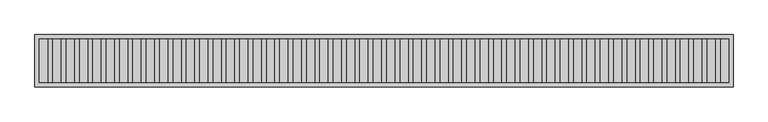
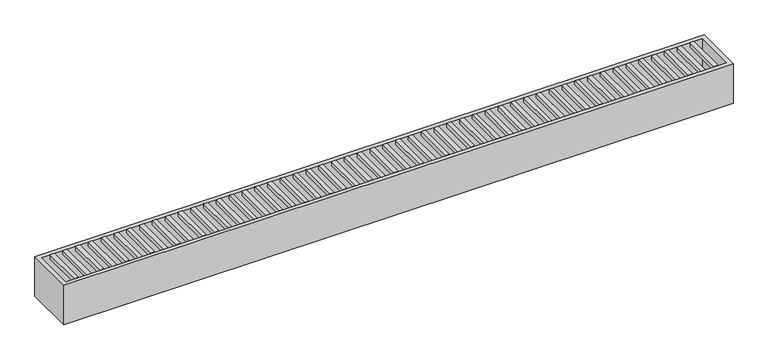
"""IFC4 building model written with IfcOpenShell, lengths in millimetres: flow terminal geometry, ARQ-RE-EX-Ace : L=3.20m."""

from ifc_helpers import new_model, si_unit, frame, origin, place, context, project, spatial, polyline, outline, extrude, source, transform, mapped, element, save


def flow_terminal_4e4d4900(model_context):
    return source(origin(), model_context, "Body", "SweptSolid", [
        extrude(outline(polyline([(1478.8, 100.0), (1478.8, -100.0), (1458.8, -100.0), (1458.8, 100.0), (1478.8, 100.0)])), frame((0.0, 0.0, -20.0), z_axis=(0.0, 0.0, 1.0), x_axis=(1.0, 0.0, 0.0)), (0.0, 0.0, 1.0), 20.0),
        extrude(outline(polyline([(1417.6, 100.0), (1417.6, -100.0), (1397.6, -100.0), (1397.6, 100.0), (1417.6, 100.0)])), frame((0.0, 0.0, -20.0), z_axis=(0.0, 0.0, 1.0), x_axis=(1.0, 0.0, 0.0)), (0.0, 0.0, 1.0), 20.0),
        extrude(outline(polyline([(1356.4, 100.0), (1356.4, -100.0), (1336.4, -100.0), (1336.4, 100.0), (1356.4, 100.0)])), frame((0.0, 0.0, -20.0), z_axis=(0.0, 0.0, 1.0), x_axis=(1.0, 0.0, 0.0)), (0.0, 0.0, 1.0), 20.0),
        extrude(outline(polyline([(1295.2, 100.0), (1295.2, -100.0), (1275.2, -100.0), (1275.2, 100.0), (1295.2, 100.0)])), frame((0.0, 0.0, -20.0), z_axis=(0.0, 0.0, 1.0), x_axis=(1.0, 0.0, 0.0)), (0.0, 0.0, 1.0), 20.0),
        extrude(outline(polyline([(1234.0, 100.0), (1234.0, -100.0), (1214.0, -100.0), (1214.0, 100.0), (1234.0, 100.0)])), frame((0.0, 0.0, -20.0), z_axis=(0.0, 0.0, 1.0), x_axis=(1.0, 0.0, 0.0)), (0.0, 0.0, 1.0), 20.0),
        extrude(outline(polyline([(1172.8, 100.0), (1172.8, -100.0), (1152.8, -100.0), (1152.8, 100.0), (1172.8, 100.0)])), frame((0.0, 0.0, -20.0), z_axis=(0.0, 0.0, 1.0), x_axis=(1.0, 0.0, 0.0)), (0.0, 0.0, 1.0), 20.0),
        extrude(outline(polyline([(1111.6, 100.0), (1111.6, -100.0), (1091.6, -100.0), (1091.6, 100.0), (1111.6, 100.0)])), frame((0.0, 0.0, -20.0), z_axis=(0.0, 0.0, 1.0), x_axis=(1.0, 0.0, 0.0)), (0.0, 0.0, 1.0), 20.0),
        extrude(outline(polyline([(1050.4, 100.0), (1050.4, -100.0), (1030.4, -100.0), (1030.4, 100.0), (1050.4, 100.0)])), frame((0.0, 0.0, -20.0), z_axis=(0.0, 0.0, 1.0), x_axis=(1.0, 0.0, 0.0)), (0.0, 0.0, 1.0), 20.0),
        extrude(outline(polyline([(989.2, 100.0), (989.2, -100.0), (969.2, -100.0), (969.2, 100.0), (989.2, 100.0)])), frame((0.0, 0.0, -20.0), z_axis=(0.0, 0.0, 1.0), x_axis=(1.0, 0.0, 0.0)), (0.0, 0.0, 1.0), 20.0),
        extrude(outline(polyline([(928.0, 100.0), (928.0, -100.0), (908.0, -100.0), (908.0, 100.0), (928.0, 100.0)])), frame((0.0, 0.0, -20.0), z_axis=(0.0, 0.0, 1.0), x_axis=(1.0, 0.0, 0.0)), (0.0, 0.0, 1.0), 20.0),
        extrude(outline(polyline([(866.8, 100.0), (866.8, -100.0), (846.8, -100.0), (846.8, 100.0), (866.8, 100.0)])), frame((0.0, 0.0, -20.0), z_axis=(0.0, 0.0, 1.0), x_axis=(1.0, 0.0, 0.0)), (0.0, 0.0, 1.0), 20.0),
        extrude(outline(polyline([(805.6, 100.0), (805.6, -100.0), (785.6, -100.0), (785.6, 100.0), (805.6, 100.0)])), frame((0.0, 0.0, -20.0), z_axis=(0.0, 0.0, 1.0), x_axis=(1.0, 0.0, 0.0)), (0.0, 0.0, 1.0), 20.0),
        extrude(outline(polyline([(744.4, 100.0), (744.4, -100.0), (724.4, -100.0), (724.4, 100.0), (744.4, 100.0)])), frame((0.0, 0.0, -20.0), z_axis=(0.0, 0.0, 1.0), x_axis=(1.0, 0.0, 0.0)), (0.0, 0.0, 1.0), 20.0),
        extrude(outline(polyline([(683.2, 100.0), (683.2, -100.0), (663.2, -100.0), (663.2, 100.0), (683.2, 100.0)])), frame((0.0, 0.0, -20.0), z_axis=(0.0, 0.0, 1.0), x_axis=(1.0, 0.0, 0.0)), (0.0, 0.0, 1.0), 20.0),
        extrude(outline(polyline([(622.0, 100.0), (622.0, -100.0), (602.0, -100.0), (602.0, 100.0), (622.0, 100.0)])), frame((0.0, 0.0, -20.0), z_axis=(0.0, 0.0, 1.0), x_axis=(1.0, 0.0, 0.0)), (0.0, 0.0, 1.0), 20.0),
        extrude(outline(polyline([(560.8, 100.0), (560.8, -100.0), (540.8, -100.0), (540.8, 100.0), (560.8, 100.0)])), frame((0.0, 0.0, -20.0), z_axis=(0.0, 0.0, 1.0), x_axis=(1.0, 0.0, 0.0)), (0.0, 0.0, 1.0), 20.0),
        extrude(outline(polyline([(499.6, 100.0), (499.6, -100.0), (479.6, -100.0), (479.6, 100.0), (499.6, 100.0)])), frame((0.0, 0.0, -20.0), z_axis=(0.0, 0.0, 1.0), x_axis=(1.0, 0.0, 0.0)), (0.0, 0.0, 1.0), 20.0),
        extrude(outline(polyline([(438.4, 100.0), (438.4, -100.0), (418.4, -100.0), (418.4, 100.0), (438.4, 100.0)])), frame((0.0, 0.0, -20.0), z_axis=(0.0, 0.0, 1.0), x_axis=(1.0, 0.0, 0.0)), (0.0, 0.0, 1.0), 20.0),
        extrude(outline(polyline([(377.2, 100.0), (377.2, -100.0), (357.2, -100.0), (357.2, 100.0), (377.2, 100.0)])), frame((0.0, 0.0, -20.0), z_axis=(0.0, 0.0, 1.0), x_axis=(1.0, 0.0, 0.0)), (0.0, 0.0, 1.0), 20.0),
        extrude(outline(polyline([(316.0, 100.0), (316.0, -100.0), (296.0, -100.0), (296.0, 100.0), (316.0, 100.0)])), frame((0.0, 0.0, -20.0), z_axis=(0.0, 0.0, 1.0), x_axis=(1.0, 0.0, 0.0)), (0.0, 0.0, 1.0), 20.0),
        extrude(outline(polyline([(254.8, 100.0), (254.8, -100.0), (234.8, -100.0), (234.8, 100.0), (254.8, 100.0)])), frame((0.0, 0.0, -20.0), z_axis=(0.0, 0.0, 1.0), x_axis=(1.0, 0.0, 0.0)), (0.0, 0.0, 1.0), 20.0),
        extrude(outline(polyline([(193.6, 100.0), (193.6, -100.0), (173.6, -100.0), (173.6, 100.0), (193.6, 100.0)])), frame((0.0, 0.0, -20.0), z_axis=(0.0, 0.0, 1.0), x_axis=(1.0, 0.0, 0.0)), (0.0, 0.0, 1.0), 20.0),
        extrude(outline(polyline([(132.4, 100.0), (132.4, -100.0), (112.4, -100.0), (112.4, 100.0), (132.4, 100.0)])), frame((0.0, 0.0, -20.0), z_axis=(0.0, 0.0, 1.0), x_axis=(1.0, 0.0, 0.0)), (0.0, 0.0, 1.0), 20.0),
        extrude(outline(polyline([(71.2, 100.0), (71.2, -100.0), (51.2, -100.0), (51.2, 100.0), (71.2, 100.0)])), frame((0.0, 0.0, -20.0), z_axis=(0.0, 0.0, 1.0), x_axis=(1.0, 0.0, 0.0)), (0.0, 0.0, 1.0), 20.0),
        extrude(outline(polyline([(10.0, 100.0), (10.0, -100.0), (-10.0, -100.0), (-10.0, 100.0), (10.0, 100.0)])), frame((0.0, 0.0, -20.0), z_axis=(0.0, 0.0, 1.0), x_axis=(1.0, 0.0, 0.0)), (0.0, 0.0, 1.0), 20.0),
        extrude(outline(polyline([(-51.2, 100.0), (-51.2, -100.0), (-71.2, -100.0), (-71.2, 100.0), (-51.2, 100.0)])), frame((0.0, 0.0, -20.0), z_axis=(0.0, 0.0, 1.0), x_axis=(1.0, 0.0, 0.0)), (0.0, 0.0, 1.0), 20.0),
        extrude(outline(polyline([(-112.4, 100.0), (-112.4, -100.0), (-132.4, -100.0), (-132.4, 100.0), (-112.4, 100.0)])), frame((0.0, 0.0, -20.0), z_axis=(0.0, 0.0, 1.0), x_axis=(1.0, 0.0, 0.0)), (0.0, 0.0, 1.0), 20.0),
        extrude(outline(polyline([(-173.6, 100.0), (-173.6, -100.0), (-193.6, -100.0), (-193.6, 100.0), (-173.6, 100.0)])), frame((0.0, 0.0, -20.0), z_axis=(0.0, 0.0, 1.0), x_axis=(1.0, 0.0, 0.0)), (0.0, 0.0, 1.0), 20.0),
        extrude(outline(polyline([(-234.8, 100.0), (-234.8, -100.0), (-254.8, -100.0), (-254.8, 100.0), (-234.8, 100.0)])), frame((0.0, 0.0, -20.0), z_axis=(0.0, 0.0, 1.0), x_axis=(1.0, 0.0, 0.0)), (0.0, 0.0, 1.0), 20.0),
        extrude(outline(polyline([(-296.0, 100.0), (-296.0, -100.0), (-316.0, -100.0), (-316.0, 100.0), (-296.0, 100.0)])), frame((0.0, 0.0, -20.0), z_axis=(0.0, 0.0, 1.0), x_axis=(1.0, 0.0, 0.0)), (0.0, 0.0, 1.0), 20.0),
        extrude(outline(polyline([(-357.2, 100.0), (-357.2, -100.0), (-377.2, -100.0), (-377.2, 100.0), (-357.2, 100.0)])), frame((0.0, 0.0, -20.0), z_axis=(0.0, 0.0, 1.0), x_axis=(1.0, 0.0, 0.0)), (0.0, 0.0, 1.0), 20.0),
        extrude(outline(polyline([(-418.4, 100.0), (-418.4, -100.0), (-438.4, -100.0), (-438.4, 100.0), (-418.4, 100.0)])), frame((0.0, 0.0, -20.0), z_axis=(0.0, 0.0, 1.0), x_axis=(1.0, 0.0, 0.0)), (0.0, 0.0, 1.0), 20.0),
        extrude(outline(polyline([(-479.6, 100.0), (-479.6, -100.0), (-499.6, -100.0), (-499.6, 100.0), (-479.6, 100.0)])), frame((0.0, 0.0, -20.0), z_axis=(0.0, 0.0, 1.0), x_axis=(1.0, 0.0, 0.0)), (0.0, 0.0, 1.0), 20.0),
        extrude(outline(polyline([(-540.8, 100.0), (-540.8, -100.0), (-560.8, -100.0), (-560.8, 100.0), (-540.8, 100.0)])), frame((0.0, 0.0, -20.0), z_axis=(0.0, 0.0, 1.0), x_axis=(1.0, 0.0, 0.0)), (0.0, 0.0, 1.0), 20.0),
        extrude(outline(polyline([(-602.0, 100.0), (-602.0, -100.0), (-622.0, -100.0), (-622.0, 100.0), (-602.0, 100.0)])), frame((0.0, 0.0, -20.0), z_axis=(0.0, 0.0, 1.0), x_axis=(1.0, 0.0, 0.0)), (0.0, 0.0, 1.0), 20.0),
        extrude(outline(polyline([(-663.2, 100.0), (-663.2, -100.0), (-683.2, -100.0), (-683.2, 100.0), (-663.2, 100.0)])), frame((0.0, 0.0, -20.0), z_axis=(0.0, 0.0, 1.0), x_axis=(1.0, 0.0, 0.0)), (0.0, 0.0, 1.0), 20.0),
        extrude(outline(polyline([(-724.4, 100.0), (-724.4, -100.0), (-744.4, -100.0), (-744.4, 100.0), (-724.4, 100.0)])), frame((0.0, 0.0, -20.0), z_axis=(0.0, 0.0, 1.0), x_axis=(1.0, 0.0, 0.0)), (0.0, 0.0, 1.0), 20.0),
        extrude(outline(polyline([(-785.6, 100.0), (-785.6, -100.0), (-805.6, -100.0), (-805.6, 100.0), (-785.6, 100.0)])), frame((0.0, 0.0, -20.0), z_axis=(0.0, 0.0, 1.0), x_axis=(1.0, 0.0, 0.0)), (0.0, 0.0, 1.0), 20.0),
        extrude(outline(polyline([(-846.8, 100.0), (-846.8, -100.0), (-866.8, -100.0), (-866.8, 100.0), (-846.8, 100.0)])), frame((0.0, 0.0, -20.0), z_axis=(0.0, 0.0, 1.0), x_axis=(1.0, 0.0, 0.0)), (0.0, 0.0, 1.0), 20.0),
        extrude(outline(polyline([(-908.0, 100.0), (-908.0, -100.0), (-928.0, -100.0), (-928.0, 100.0), (-908.0, 100.0)])), frame((0.0, 0.0, -20.0), z_axis=(0.0, 0.0, 1.0), x_axis=(1.0, 0.0, 0.0)), (0.0, 0.0, 1.0), 20.0),
        extrude(outline(polyline([(-969.2, 100.0), (-969.2, -100.0), (-989.2, -100.0), (-989.2, 100.0), (-969.2, 100.0)])), frame((0.0, 0.0, -20.0), z_axis=(0.0, 0.0, 1.0), x_axis=(1.0, 0.0, 0.0)), (0.0, 0.0, 1.0), 20.0),
        extrude(outline(polyline([(-1030.4, 100.0), (-1030.4, -100.0), (-1050.4, -100.0), (-1050.4, 100.0), (-1030.4, 100.0)])), frame((0.0, 0.0, -20.0), z_axis=(0.0, 0.0, 1.0), x_axis=(1.0, 0.0, 0.0)), (0.0, 0.0, 1.0), 20.0),
        extrude(outline(polyline([(-1091.6, 100.0), (-1091.6, -100.0), (-1111.6, -100.0), (-1111.6, 100.0), (-1091.6, 100.0)])), frame((0.0, 0.0, -20.0), z_axis=(0.0, 0.0, 1.0), x_axis=(1.0, 0.0, 0.0)), (0.0, 0.0, 1.0), 20.0),
        extrude(outline(polyline([(-1152.8, 100.0), (-1152.8, -100.0), (-1172.8, -100.0), (-1172.8, 100.0), (-1152.8, 100.0)])), frame((0.0, 0.0, -20.0), z_axis=(0.0, 0.0, 1.0), x_axis=(1.0, 0.0, 0.0)), (0.0, 0.0, 1.0), 20.0),
        extrude(outline(polyline([(-1214.0, 100.0), (-1214.0, -100.0), (-1234.0, -100.0), (-1234.0, 100.0), (-1214.0, 100.0)])), frame((0.0, 0.0, -20.0), z_axis=(0.0, 0.0, 1.0), x_axis=(1.0, 0.0, 0.0)), (0.0, 0.0, 1.0), 20.0),
        extrude(outline(polyline([(-1275.2, 100.0), (-1275.2, -100.0), (-1295.2, -100.0), (-1295.2, 100.0), (-1275.2, 100.0)])), frame((0.0, 0.0, -20.0), z_axis=(0.0, 0.0, 1.0), x_axis=(1.0, 0.0, 0.0)), (0.0, 0.0, 1.0), 20.0),
        extrude(outline(polyline([(-1336.4, 100.0), (-1336.4, -100.0), (-1356.4, -100.0), (-1356.4, 100.0), (-1336.4, 100.0)])), frame((0.0, 0.0, -20.0), z_axis=(0.0, 0.0, 1.0), x_axis=(1.0, 0.0, 0.0)), (0.0, 0.0, 1.0), 20.0),
        extrude(outline(polyline([(-1397.6, 100.0), (-1397.6, -100.0), (-1417.6, -100.0), (-1417.6, 100.0), (-1397.6, 100.0)])), frame((0.0, 0.0, -20.0), z_axis=(0.0, 0.0, 1.0), x_axis=(1.0, 0.0, 0.0)), (0.0, 0.0, 1.0), 20.0),
        extrude(outline(polyline([(-1458.8, 100.0), (-1458.8, -100.0), (-1478.8, -100.0), (-1478.8, 100.0), (-1458.8, 100.0)])), frame((0.0, 0.0, -20.0), z_axis=(0.0, 0.0, 1.0), x_axis=(1.0, 0.0, 0.0)), (0.0, 0.0, 1.0), 20.0),
        extrude(outline(polyline([(1540.0, 100.0), (1540.0, -100.0), (1520.0, -100.0), (1520.0, 100.0), (1540.0, 100.0)])), frame((0.0, 0.0, -20.0), z_axis=(0.0, 0.0, 1.0), x_axis=(1.0, 0.0, 0.0)), (0.0, 0.0, 1.0), 20.0),
        extrude(outline(polyline([(-1520.0, 100.0), (-1520.0, -100.0), (-1540.0, -100.0), (-1540.0, 100.0), (-1520.0, 100.0)])), frame((0.0, 0.0, -20.0), z_axis=(0.0, 0.0, 1.0), x_axis=(1.0, 0.0, 0.0)), (0.0, 0.0, 1.0), 20.0),
        extrude(outline(polyline([(1580.0, 100.0), (1580.0, -100.0), (-1580.0, -100.0), (-1580.0, 100.0), (1580.0, 100.0)])), frame((0.0, 0.0, -200.0), z_axis=(0.0, 0.0, 1.0), x_axis=(1.0, 0.0, 0.0)), (0.0, 0.0, 1.0), 20.0),
        extrude(outline(polyline([(1600.0, 120.0), (1600.0, -120.0), (-1600.0, -120.0), (-1600.0, 120.0), (1600.0, 120.0)]), holes=[polyline([(1580.0, 100.0), (-1580.0, 100.0), (-1580.0, -100.0), (1580.0, -100.0), (1580.0, 100.0)])]), frame((0.0, 0.0, -200.0), z_axis=(0.0, 0.0, 1.0), x_axis=(1.0, 0.0, 0.0)), (0.0, 0.0, 1.0), 200.0),
    ])


if __name__ == "__main__":
    model = new_model("IFC4")
    model_context = context("Model", 3, world=origin())
    ifc_project = project(units=[si_unit("LENGTHUNIT", "METRE", prefix="MILLI")], contexts=[model_context])
    site = spatial("IfcSite", under=ifc_project)
    building = spatial("IfcBuilding", under=site)
    placement = place(None, origin())
    flow_terminal_shape = flow_terminal_4e4d4900(model_context)
    element("IfcFlowTerminal", 1, ObjectType="ARQ-RE-EX-Ace : L=3.20m", at=placement, inside=building, context=model_context, shape_type="MappedRepresentation", body=[
        mapped(flow_terminal_shape, transform((0.0, 0.0, 0.0), x_axis=(1.0, 0.0, 0.0), y_axis=(0.0, 1.0, 0.0), z_axis=(0.0, 0.0, 1.0))),
    ])
    save(model, "model.ifc")
